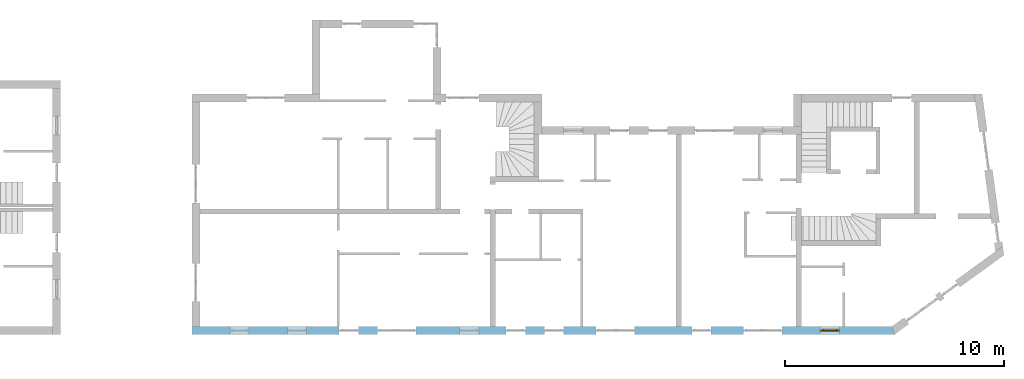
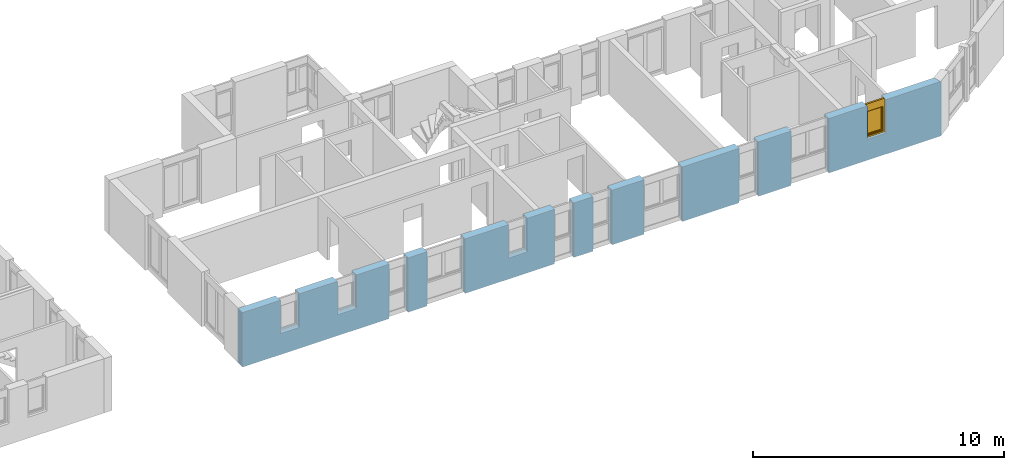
# One storey, part 32 of 42: 1 window, 11 openings, plus 1 element that does not belong to this part.
"""IFC2X3 building model written with IfcOpenShell, lengths in millimetres."""

from ifc_helpers import new_model, entity, si_unit, converted_unit, frame, frame_2d, origin, origin_with_axes, place, context, subcontext, project, spatial, polyline, rectangle, outline, extrude, faceted_brep, material, layer, layer_set, layer_usage, type_object, element, fill, save


model = new_model("IFC2X3")

# Units and contexts
model_context = context("Model", 3, precision=1e-05, world=origin())
body_context = subcontext(model_context, "Body", "Model", "MODEL_VIEW")
ifc_project = project(units=[si_unit("LENGTHUNIT", "METRE", prefix="MILLI"), converted_unit("PLANEANGLEUNIT", "DEGREE", entity("IfcPlaneAngleMeasure", 0.0174532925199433), si_unit("PLANEANGLEUNIT", "RADIAN"), dimensions=[0, 0, 0, 0, 0, 0, 0]), si_unit("AREAUNIT", "SQUARE_METRE"), si_unit("VOLUMEUNIT", "CUBIC_METRE")], contexts=[model_context])

# Building, storey
building_placement = place(None, origin())
building = spatial("IfcBuilding", under=ifc_project, at=building_placement, Name="Gebäude", CompositionType="ELEMENT")
storey_placement = place(building_placement, frame((0.0, 0.0, 2730.0), z_axis=(0.0, 0.0, 1.0), x_axis=(1.0, 0.0, 0.0)))
storey = spatial("IfcBuildingStorey", under=building, at=storey_placement, Name="OG.- Grundriss", CompositionType="ELEMENT", Elevation=2730.0)

# Wall, openings, window
ifc_material_1 = material(Name="Poroton")
ifc_layer = layer(ifc_material_1, 365.0000000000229)
ifc_layer_set = layer_set([ifc_layer])
ifc_layer_usage = layer_usage(ifc_layer_set, "AXIS2", "POSITIVE", 0.0)
wall_placement = place(storey_placement, frame((148357.7928067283, 125274.8877324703, 0.0), z_axis=(0.0, 0.0, 1.0), x_axis=(1.0, -2.749268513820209e-11, 0.0)))
wall = element("IfcWallStandardCase", 1, at=wall_placement, inside=storey, material=ifc_layer_usage, Name="<Unnamed Element>", context=body_context, shape_type="SweptSolid", body=[
    extrude(outline(polyline([(0.0, 0.0), (32144.99999877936, 0.0), (32026.74038666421, 365.0000000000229), (-1.003483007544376e-08, 365.0), (0.0, 0.0)])), origin_with_axes(), (0.0, 0.0, 1.0), 2650.0),
])
opening_1_placement = place(wall_placement, frame((22865.29648749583, -9.393166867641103e-11, 0.0), z_axis=(0.0, 1.0, 0.0), x_axis=(0.0, 0.0, 1.0)))
element("IfcOpeningElement", 2, at=opening_1_placement, cuts=wall, Name="Fensteröffnung", ObjectType="Opening", context=body_context, shape_type="SweptSolid", body=[
    extrude(rectangle(XDim=2650.0, YDim=885.0, at=frame_2d((1325.0, 442.5), x_axis=(1.0, 0.0))), origin_with_axes(), (0.0, 0.0, 1.0), 365.0000000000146),
])
opening_2_placement = place(wall_placement, frame((25240.29648749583, -1.030266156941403e-10, 0.0), z_axis=(0.0, 1.0, 0.0), x_axis=(0.0, 0.0, 1.0)))
element("IfcOpeningElement", 3, at=opening_2_placement, cuts=wall, Name="Fensteröffnung", ObjectType="Opening", context=body_context, shape_type="SweptSolid", body=[
    extrude(rectangle(XDim=2650.0, YDim=1760.0, at=frame_2d((1325.0, 880.0), x_axis=(1.0, 0.0))), origin_with_axes(), (0.0, 0.0, 1.0), 365.0000000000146),
])
opening_3_placement = place(wall_placement, frame((14365.26291869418, -5.847463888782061e-11, 0.0), z_axis=(0.0, 1.0, 0.0), x_axis=(0.0, 0.0, 1.0)))
element("IfcOpeningElement", 4, at=opening_3_placement, cuts=wall, Name="Fensteröffnung", ObjectType="Opening", context=body_context, shape_type="SweptSolid", body=[
    extrude(rectangle(XDim=2650.0, YDim=885.0, at=frame_2d((1325.0, 442.5), x_axis=(1.0, 0.0))), origin_with_axes(), (0.0, 0.0, 1.0), 365.0000000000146),
])
opening_4_placement = place(wall_placement, frame((16123.92212975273, -7.146586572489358e-11, 0.0), z_axis=(0.0, 1.0, 0.0), x_axis=(0.0, 0.0, 1.0)))
element("IfcOpeningElement", 5, at=opening_4_placement, cuts=wall, Name="Fensteröffnung", ObjectType="Opening", context=body_context, shape_type="SweptSolid", body=[
    extrude(rectangle(XDim=2650.0, YDim=885.0, at=frame_2d((1325.0, 442.5), x_axis=(1.0, 0.0))), origin_with_axes(), (0.0, 0.0, 1.0), 365.0000000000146),
])
opening_5_placement = place(wall_placement, frame((6739.999999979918, -3.114109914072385e-11, 0.0), z_axis=(0.0, 1.0, 0.0), x_axis=(0.0, 0.0, 1.0)))
element("IfcOpeningElement", 6, at=opening_5_placement, cuts=wall, Name="Fensteröffnung", ObjectType="Opening", context=body_context, shape_type="SweptSolid", body=[
    extrude(rectangle(XDim=2650.0, YDim=885.0, at=frame_2d((1325.0, 442.5), x_axis=(1.0, 0.0))), origin_with_axes(), (0.0, 0.0, 1.0), 365.0000000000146),
])
opening_6_placement = place(wall_placement, frame((8489.999999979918, -3.477907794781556e-11, 0.0), z_axis=(0.0, 1.0, 0.0), x_axis=(0.0, 0.0, 1.0)))
element("IfcOpeningElement", 7, at=opening_6_placement, cuts=wall, Name="Fensteröffnung", ObjectType="Opening", context=body_context, shape_type="SweptSolid", body=[
    extrude(rectangle(XDim=2650.0, YDim=1760.0, at=frame_2d((1325.0, 880.0), x_axis=(1.0, 0.0))), origin_with_axes(), (0.0, 0.0, 1.0), 365.0000000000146),
])
opening_7_placement = place(wall_placement, frame((1740.0, -3.114109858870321e-11, 1020.0), z_axis=(0.0, 1.0, 0.0), x_axis=(0.0, 0.0, 1.0)))
element("IfcOpeningElement", 8, at=opening_7_placement, cuts=wall, Name="Fensteröffnung", ObjectType="Opening", context=body_context, shape_type="SweptSolid", body=[
    extrude(rectangle(XDim=1630.0, YDim=885.0, at=frame_2d((815.0, 442.5), x_axis=(1.0, 0.0))), origin_with_axes(), (0.0, 0.0, 1.0), 365.0000000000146),
])
opening_8_placement = place(wall_placement, frame((4365.0, -7.494236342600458e-12, 1020.0), z_axis=(0.0, 1.0, 0.0), x_axis=(0.0, 0.0, 1.0)))
element("IfcOpeningElement", 9, at=opening_8_placement, cuts=wall, Name="Fensteröffnung", ObjectType="Opening", context=body_context, shape_type="SweptSolid", body=[
    extrude(rectangle(XDim=1630.0, YDim=885.0, at=frame_2d((815.0, 442.5), x_axis=(1.0, 0.0))), origin_with_axes(), (0.0, 0.0, 1.0), 365.0000000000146),
])
opening_9_placement = place(wall_placement, frame((12240.0, -5.296897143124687e-11, 1020.0), z_axis=(0.0, 1.0, 0.0), x_axis=(0.0, 0.0, 1.0)))
element("IfcOpeningElement", 10, at=opening_9_placement, cuts=wall, Name="Fensteröffnung", ObjectType="Opening", context=body_context, shape_type="SweptSolid", body=[
    extrude(rectangle(XDim=1630.0, YDim=885.0, at=frame_2d((815.0, 442.5), x_axis=(1.0, 0.0))), origin_with_axes(), (0.0, 0.0, 1.0), 365.0000000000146),
])
opening_10_placement = place(wall_placement, frame((18490.51063065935, -4.984640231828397e-11, 0.0), z_axis=(0.0, 1.0, 0.0), x_axis=(0.0, 0.0, 1.0)))
element("IfcOpeningElement", 11, at=opening_10_placement, cuts=wall, Name="Fensteröffnung", ObjectType="Opening", context=body_context, shape_type="SweptSolid", body=[
    extrude(rectangle(XDim=2650.0, YDim=1760.0, at=frame_2d((1325.0, 880.0), x_axis=(1.0, 0.0))), origin_with_axes(), (0.0, 0.0, 1.0), 365.0000000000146),
])
opening_11_placement = place(wall_placement, frame((28740.29648749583, -1.103025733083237e-10, 1020.0), z_axis=(0.0, 1.0, 0.0), x_axis=(0.0, 0.0, 1.0)))
opening_11 = element("IfcOpeningElement", 12, at=opening_11_placement, cuts=wall, Name="Fensteröffnung", ObjectType="Opening", context=body_context, shape_type="SweptSolid", body=[
    extrude(rectangle(XDim=1630.0, YDim=885.0, at=frame_2d((815.0, 442.5), x_axis=(1.0, 0.0))), origin_with_axes(), (0.0, 0.0, 1.0), 365.0000000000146),
])
ifc_material_2 = material()
window_style = type_object("IfcWindowStyle", Name="Fenster", ConstructionType="NOTDEFINED", OperationType="USERDEFINED", ParameterTakesPrecedence=False, Sizeable=False)
window_placement = place(opening_11_placement, frame((0.0, 0.0, 0.0), z_axis=(1.0, 0.0, 0.0), x_axis=(0.0, 1.0, 0.0)))
window = element("IfcWindow", 13, at=window_placement, inside=storey, type_object=window_style, material=ifc_material_2, Name="Fenster", OverallHeight=1630.0, OverallWidth=885.0, context=body_context, shape_type="Brep", body=[
    faceted_brep([(-1.221113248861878e-08, 200.000000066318, 1630.0), (-1.221113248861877e-08, 200.0000000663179, -2.449293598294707e-15), (69.99999998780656, 200.0000000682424, -2.449293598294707e-15), (69.99999998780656, 200.0000000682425, 1630.0), (-1.001171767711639e-08, 120.0000000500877, 2.449293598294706e-15), (-1.00117176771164e-08, 120.0000000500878, 1630.0), (69.99999999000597, 120.0000000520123, 1630.0), (69.99999999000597, 120.0000000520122, 2.449293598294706e-15), (-1.221113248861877e-08, 200.0000000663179, -2.449293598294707e-15), (-1.221113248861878e-08, 200.000000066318, 1630.0), (-1.00117176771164e-08, 120.0000000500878, 1630.0), (-1.001171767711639e-08, 120.0000000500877, 2.449293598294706e-15), (69.99999998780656, 200.0000000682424, -2.449293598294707e-15), (-1.221113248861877e-08, 200.0000000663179, -2.449293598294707e-15), (-1.001171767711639e-08, 120.0000000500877, 2.449293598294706e-15), (69.99999999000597, 120.0000000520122, 2.449293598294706e-15), (69.99999998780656, 200.0000000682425, 1630.0), (69.99999998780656, 200.0000000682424, -2.449293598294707e-15), (69.99999999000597, 120.0000000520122, 2.449293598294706e-15), (69.99999999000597, 120.0000000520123, 1630.0), (-1.221113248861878e-08, 200.000000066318, 1630.0), (69.99999998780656, 200.0000000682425, 1630.0), (69.99999999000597, 120.0000000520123, 1630.0), (-1.00117176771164e-08, 120.0000000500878, 1630.0)], [[[0, 1, 2, 3]], [[4, 5, 6, 7]], [[8, 9, 10, 11]], [[12, 13, 14, 15]], [[16, 17, 18, 19]], [[20, 21, 22, 23]]], orient=[[False], [False], [False], [False], [False], [False]]),
    faceted_brep([(814.9999999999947, 200.0000000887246, 1630.0), (814.9999999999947, 200.0000000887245, -2.449293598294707e-15), (885.0000000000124, 200.0000000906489, -2.449293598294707e-15), (885.0000000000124, 200.0000000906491, 1630.0), (815.000000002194, 120.0000000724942, 2.449293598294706e-15), (815.000000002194, 120.0000000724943, 1630.0), (885.0000000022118, 120.0000000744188, 1630.0), (885.0000000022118, 120.0000000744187, 2.449293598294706e-15), (814.9999999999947, 200.0000000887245, -2.449293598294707e-15), (814.9999999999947, 200.0000000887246, 1630.0), (815.000000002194, 120.0000000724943, 1630.0), (815.000000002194, 120.0000000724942, 2.449293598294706e-15), (885.0000000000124, 200.0000000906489, -2.449293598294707e-15), (814.9999999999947, 200.0000000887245, -2.449293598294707e-15), (815.000000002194, 120.0000000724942, 2.449293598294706e-15), (885.0000000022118, 120.0000000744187, 2.449293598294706e-15), (885.0000000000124, 200.0000000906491, 1630.0), (885.0000000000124, 200.0000000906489, -2.449293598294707e-15), (885.0000000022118, 120.0000000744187, 2.449293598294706e-15), (885.0000000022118, 120.0000000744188, 1630.0), (814.9999999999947, 200.0000000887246, 1630.0), (885.0000000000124, 200.0000000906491, 1630.0), (885.0000000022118, 120.0000000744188, 1630.0), (815.000000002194, 120.0000000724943, 1630.0)], [[[0, 1, 2, 3]], [[4, 5, 6, 7]], [[8, 9, 10, 11]], [[12, 13, 14, 15]], [[16, 17, 18, 19]], [[20, 21, 22, 23]]], orient=[[False], [False], [False], [False], [False], [False]]),
    faceted_brep([(69.99999998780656, 200.0000000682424, 69.99999999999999), (69.99999998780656, 200.0000000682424, -2.449293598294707e-15), (814.9999999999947, 200.0000000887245, -2.449293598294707e-15), (814.9999999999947, 200.0000000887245, 69.99999999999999), (69.99999999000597, 120.0000000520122, 2.449293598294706e-15), (69.99999999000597, 120.0000000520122, 69.99999999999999), (815.000000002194, 120.0000000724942, 69.99999999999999), (815.000000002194, 120.0000000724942, 2.449293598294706e-15), (69.99999998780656, 200.0000000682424, -2.449293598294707e-15), (69.99999998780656, 200.0000000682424, 69.99999999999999), (69.99999999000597, 120.0000000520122, 69.99999999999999), (69.99999999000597, 120.0000000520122, 2.449293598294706e-15), (814.9999999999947, 200.0000000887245, -2.449293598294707e-15), (69.99999998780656, 200.0000000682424, -2.449293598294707e-15), (69.99999999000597, 120.0000000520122, 2.449293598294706e-15), (815.000000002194, 120.0000000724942, 2.449293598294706e-15), (814.9999999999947, 200.0000000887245, 69.99999999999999), (814.9999999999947, 200.0000000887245, -2.449293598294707e-15), (815.000000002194, 120.0000000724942, 2.449293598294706e-15), (815.000000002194, 120.0000000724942, 69.99999999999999), (69.99999998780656, 200.0000000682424, 69.99999999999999), (814.9999999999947, 200.0000000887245, 69.99999999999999), (815.000000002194, 120.0000000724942, 69.99999999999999), (69.99999999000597, 120.0000000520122, 69.99999999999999)], [[[0, 1, 2, 3]], [[4, 5, 6, 7]], [[8, 9, 10, 11]], [[12, 13, 14, 15]], [[16, 17, 18, 19]], [[20, 21, 22, 23]]], orient=[[False], [False], [False], [False], [False], [False]]),
    faceted_brep([(69.99999998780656, 200.0000000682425, 1630.0), (69.99999998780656, 200.0000000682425, 1260.0), (814.9999999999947, 200.0000000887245, 1260.0), (814.9999999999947, 200.0000000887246, 1630.0), (69.99999999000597, 120.0000000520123, 1260.0), (69.99999999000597, 120.0000000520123, 1630.0), (815.000000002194, 120.0000000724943, 1630.0), (815.000000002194, 120.0000000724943, 1260.0), (69.99999998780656, 200.0000000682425, 1260.0), (69.99999998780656, 200.0000000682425, 1630.0), (69.99999999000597, 120.0000000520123, 1630.0), (69.99999999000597, 120.0000000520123, 1260.0), (814.9999999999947, 200.0000000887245, 1260.0), (69.99999998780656, 200.0000000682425, 1260.0), (69.99999999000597, 120.0000000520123, 1260.0), (815.000000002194, 120.0000000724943, 1260.0), (814.9999999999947, 200.0000000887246, 1630.0), (814.9999999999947, 200.0000000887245, 1260.0), (815.000000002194, 120.0000000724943, 1260.0), (815.000000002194, 120.0000000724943, 1630.0), (69.99999998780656, 200.0000000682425, 1630.0), (814.9999999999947, 200.0000000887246, 1630.0), (815.000000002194, 120.0000000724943, 1630.0), (69.99999999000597, 120.0000000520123, 1630.0)], [[[0, 1, 2, 3]], [[4, 5, 6, 7]], [[8, 9, 10, 11]], [[12, 13, 14, 15]], [[16, 17, 18, 19]], [[20, 21, 22, 23]]], orient=[[False], [False], [False], [False], [False], [False]]),
    faceted_brep([(49.9999999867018, 240.0000000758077, 1280.0), (49.9999999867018, 240.0000000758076, 49.99999999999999), (119.9999999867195, 240.0000000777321, 49.99999999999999), (119.9999999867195, 240.0000000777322, 1280.0), (49.99999998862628, 170.0000000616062, 50.0), (49.99999998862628, 170.0000000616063, 1280.0), (119.999999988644, 170.0000000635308, 1280.0), (119.999999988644, 170.0000000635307, 50.0), (49.9999999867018, 240.0000000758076, 49.99999999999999), (49.9999999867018, 240.0000000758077, 1280.0), (49.99999998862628, 170.0000000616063, 1280.0), (49.99999998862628, 170.0000000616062, 50.0), (119.9999999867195, 240.0000000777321, 49.99999999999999), (49.9999999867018, 240.0000000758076, 49.99999999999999), (49.99999998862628, 170.0000000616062, 50.0), (119.999999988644, 170.0000000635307, 50.0), (119.9999999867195, 240.0000000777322, 1280.0), (119.9999999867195, 240.0000000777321, 49.99999999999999), (119.999999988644, 170.0000000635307, 50.0), (119.999999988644, 170.0000000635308, 1280.0), (49.9999999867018, 240.0000000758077, 1280.0), (119.9999999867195, 240.0000000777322, 1280.0), (119.999999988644, 170.0000000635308, 1280.0), (49.99999998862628, 170.0000000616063, 1280.0)], [[[0, 1, 2, 3]], [[4, 5, 6, 7]], [[8, 9, 10, 11]], [[12, 13, 14, 15]], [[16, 17, 18, 19]], [[20, 21, 22, 23]]], orient=[[False], [False], [False], [False], [False], [False]]),
    faceted_brep([(764.9999999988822, 240.000000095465, 1280.0), (764.9999999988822, 240.0000000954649, 49.99999999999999), (834.9999999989, 240.0000000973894, 49.99999999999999), (834.9999999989, 240.0000000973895, 1280.0), (765.0000000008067, 170.0000000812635, 50.0), (765.0000000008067, 170.0000000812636, 1280.0), (835.0000000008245, 170.000000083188, 1280.0), (835.0000000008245, 170.000000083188, 50.0), (764.9999999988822, 240.0000000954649, 49.99999999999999), (764.9999999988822, 240.000000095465, 1280.0), (765.0000000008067, 170.0000000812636, 1280.0), (765.0000000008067, 170.0000000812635, 50.0), (834.9999999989, 240.0000000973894, 49.99999999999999), (764.9999999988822, 240.0000000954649, 49.99999999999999), (765.0000000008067, 170.0000000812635, 50.0), (835.0000000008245, 170.000000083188, 50.0), (834.9999999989, 240.0000000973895, 1280.0), (834.9999999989, 240.0000000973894, 49.99999999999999), (835.0000000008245, 170.000000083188, 50.0), (835.0000000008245, 170.000000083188, 1280.0), (764.9999999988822, 240.000000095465, 1280.0), (834.9999999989, 240.0000000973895, 1280.0), (835.0000000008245, 170.000000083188, 1280.0), (765.0000000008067, 170.0000000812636, 1280.0)], [[[0, 1, 2, 3]], [[4, 5, 6, 7]], [[8, 9, 10, 11]], [[12, 13, 14, 15]], [[16, 17, 18, 19]], [[20, 21, 22, 23]]], orient=[[False], [False], [False], [False], [False], [False]]),
    faceted_brep([(119.9999999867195, 240.0000000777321, 120.0), (119.9999999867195, 240.0000000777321, 49.99999999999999), (764.9999999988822, 240.0000000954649, 49.99999999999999), (764.9999999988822, 240.0000000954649, 120.0), (119.999999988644, 170.0000000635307, 50.0), (119.999999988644, 170.0000000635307, 120.0), (765.0000000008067, 170.0000000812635, 120.0), (765.0000000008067, 170.0000000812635, 50.0), (119.9999999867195, 240.0000000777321, 49.99999999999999), (119.9999999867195, 240.0000000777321, 120.0), (119.999999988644, 170.0000000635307, 120.0), (119.999999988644, 170.0000000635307, 50.0), (764.9999999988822, 240.0000000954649, 49.99999999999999), (119.9999999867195, 240.0000000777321, 49.99999999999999), (119.999999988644, 170.0000000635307, 50.0), (765.0000000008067, 170.0000000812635, 50.0), (764.9999999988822, 240.0000000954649, 120.0), (764.9999999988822, 240.0000000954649, 49.99999999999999), (765.0000000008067, 170.0000000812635, 50.0), (765.0000000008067, 170.0000000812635, 120.0), (119.9999999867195, 240.0000000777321, 120.0), (764.9999999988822, 240.0000000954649, 120.0), (765.0000000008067, 170.0000000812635, 120.0), (119.999999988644, 170.0000000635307, 120.0)], [[[0, 1, 2, 3]], [[4, 5, 6, 7]], [[8, 9, 10, 11]], [[12, 13, 14, 15]], [[16, 17, 18, 19]], [[20, 21, 22, 23]]], orient=[[False], [False], [False], [False], [False], [False]]),
    faceted_brep([(119.9999999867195, 240.0000000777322, 1280.0), (119.9999999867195, 240.0000000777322, 1210.0), (764.9999999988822, 240.000000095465, 1210.0), (764.9999999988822, 240.000000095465, 1280.0), (119.999999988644, 170.0000000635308, 1210.0), (119.999999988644, 170.0000000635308, 1280.0), (765.0000000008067, 170.0000000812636, 1280.0), (765.0000000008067, 170.0000000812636, 1210.0), (119.9999999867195, 240.0000000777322, 1210.0), (119.9999999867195, 240.0000000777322, 1280.0), (119.999999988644, 170.0000000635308, 1280.0), (119.999999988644, 170.0000000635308, 1210.0), (764.9999999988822, 240.000000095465, 1210.0), (119.9999999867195, 240.0000000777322, 1210.0), (119.999999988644, 170.0000000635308, 1210.0), (765.0000000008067, 170.0000000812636, 1210.0), (764.9999999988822, 240.000000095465, 1280.0), (764.9999999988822, 240.000000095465, 1210.0), (765.0000000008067, 170.0000000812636, 1210.0), (765.0000000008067, 170.0000000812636, 1280.0), (119.9999999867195, 240.0000000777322, 1280.0), (764.9999999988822, 240.000000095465, 1280.0), (765.0000000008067, 170.0000000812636, 1280.0), (119.999999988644, 170.0000000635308, 1280.0)], [[[0, 1, 2, 3]], [[4, 5, 6, 7]], [[8, 9, 10, 11]], [[12, 13, 14, 15]], [[16, 17, 18, 19]], [[20, 21, 22, 23]]], orient=[[False], [False], [False], [False], [False], [False]]),
    faceted_brep([(119.9999999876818, 205.0000000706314, 120.0), (764.9999999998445, 205.0000000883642, 120.0), (764.9999999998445, 205.0000000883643, 1210.0), (119.9999999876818, 205.0000000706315, 1210.0), (119.9999999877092, 204.0000000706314, 120.0), (119.9999999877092, 204.0000000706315, 1210.0), (764.999999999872, 204.0000000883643, 1210.0), (764.999999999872, 204.0000000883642, 120.0), (119.9999999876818, 205.0000000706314, 120.0), (119.9999999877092, 204.0000000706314, 120.0), (764.999999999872, 204.0000000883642, 120.0), (764.9999999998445, 205.0000000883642, 120.0), (764.9999999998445, 205.0000000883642, 120.0), (764.999999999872, 204.0000000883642, 120.0), (764.999999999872, 204.0000000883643, 1210.0), (764.9999999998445, 205.0000000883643, 1210.0), (764.9999999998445, 205.0000000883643, 1210.0), (764.999999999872, 204.0000000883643, 1210.0), (119.9999999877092, 204.0000000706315, 1210.0), (119.9999999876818, 205.0000000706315, 1210.0), (119.9999999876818, 205.0000000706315, 1210.0), (119.9999999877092, 204.0000000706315, 1210.0), (119.9999999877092, 204.0000000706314, 120.0), (119.9999999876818, 205.0000000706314, 120.0)], [[[0, 1, 2, 3]], [[4, 5, 6, 7]], [[8, 9, 10, 11]], [[12, 13, 14, 15]], [[16, 17, 18, 19]], [[20, 21, 22, 23]]], orient=[[False], [False], [False], [False], [False], [False]]),
])
fill(opening_11, window)

save(model, "model.ifc")
